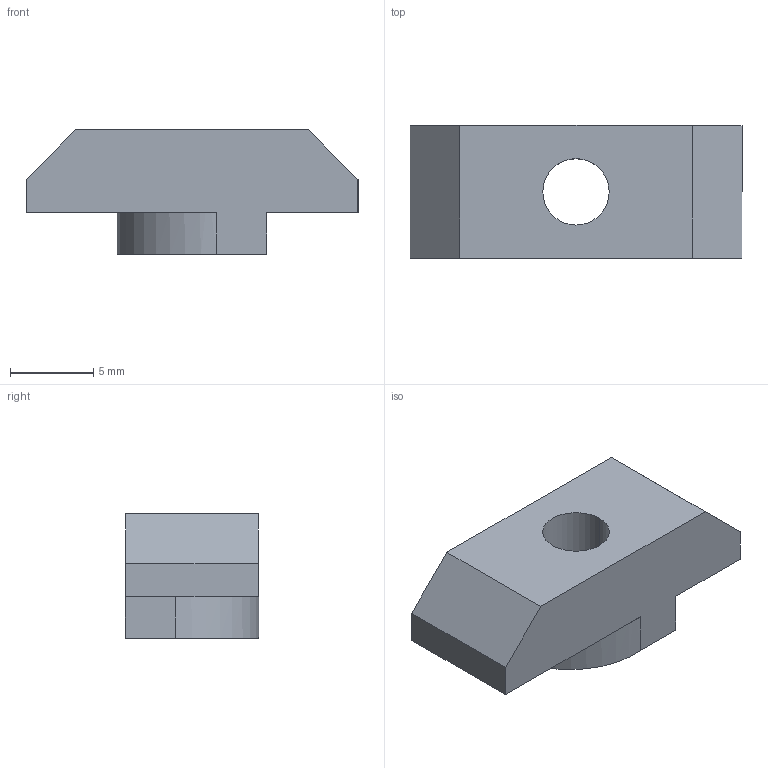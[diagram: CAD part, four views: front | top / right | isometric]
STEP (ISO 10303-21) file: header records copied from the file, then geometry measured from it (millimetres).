
FILE_DESCRIPTION (( 'STEP AP203' ), '1' );
FILE_NAME ('5010.STEP', '2016-04-16T12:04:24', ( '' ), ( '' ), 'SwSTEP 2.0', 'SolidWorks 2014', '' );
FILE_SCHEMA (( 'CONFIG_CONTROL_DESIGN' ));
Length unit declared in the file: millimetre
Products named in the file (1): 5010
Bounding box: 20 x 8.04 x 7.5 mm (x, y, z)
Volume: 782.4 mm3; surface area: 696.5 mm2
Topology: 1 solids, 1 shells, 18 faces, 46 edges, 30 vertices
Faces by surface type: plane 14, cylinder 4
Entity records: 625 total; most frequent: CARTESIAN_POINT 95, DIRECTION 94, ORIENTED_EDGE 92, EDGE_CURVE 46, VECTOR 36, LINE 36, VERTEX_POINT 30, AXIS2_PLACEMENT_3D 29
